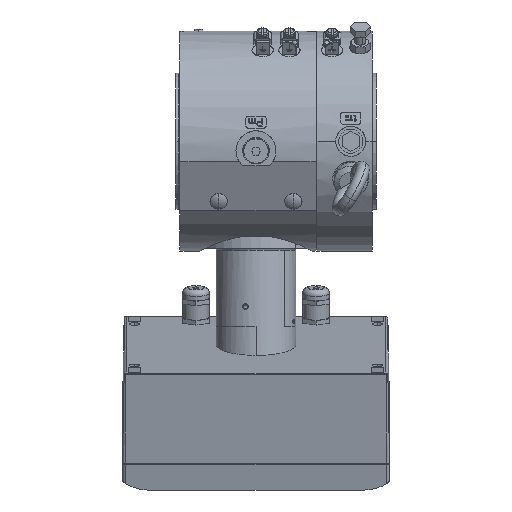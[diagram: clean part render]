
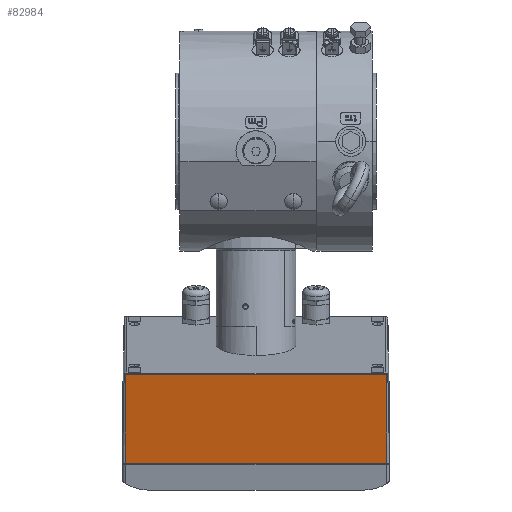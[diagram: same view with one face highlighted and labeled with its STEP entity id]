
A CAD part, front view. The second image highlights one B-rep face of the part: STEP entity #82984.
In plain terms, the highlighted planar face has unit normal (0, -0.97, -0.242).
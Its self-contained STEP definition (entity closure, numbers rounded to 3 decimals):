
#10561=CARTESIAN_POINT('',(-142.986,-80.594,-175.467));
#10562=CARTESIAN_POINT('',(-142.954,-80.602,
-175.436));
#10563=CARTESIAN_POINT('',(-142.888,-80.616,
-175.376));
#10564=CARTESIAN_POINT('',(-142.786,-80.636,
-175.299));
#10565=CARTESIAN_POINT('',(-142.682,-80.653,
-175.231));
#10566=CARTESIAN_POINT('',(-142.575,-80.667,
-175.173));
#10567=CARTESIAN_POINT('',(-142.466,-80.679,
-175.124));
#10568=CARTESIAN_POINT('',(-142.354,-80.689,
-175.083));
#10569=CARTESIAN_POINT('',(-142.277,-80.695,
-175.061));
#10570=CARTESIAN_POINT('',(-142.238,-80.697,
-175.052));
#10644=DIRECTION('',(1.,0.,0.));
#10645=VECTOR('',#10644,194.48);
#10646=CARTESIAN_POINT('',(-142.238,-80.697,
-175.052));
#10647=LINE('5723',#10646,#10645);
#10707=CARTESIAN_POINT('',(52.241,-80.697,
-175.052));
#10708=CARTESIAN_POINT('',(52.281,-80.695,
-175.061));
#10709=CARTESIAN_POINT('',(52.358,-80.689,
-175.084));
#10710=CARTESIAN_POINT('',(52.471,-80.679,
-175.125));
#10711=CARTESIAN_POINT('',(52.58,-80.667,
-175.174));
#10712=CARTESIAN_POINT('',(52.687,-80.652,
-175.232));
#10713=CARTESIAN_POINT('',(52.79,-80.636,
-175.299));
#10714=CARTESIAN_POINT('',(52.89,-80.617,
-175.375));
#10715=CARTESIAN_POINT('',(52.955,-80.602,
-175.433));
#10716=CARTESIAN_POINT('',(52.986,-80.594,-175.464));
#10744=CARTESIAN_POINT('',(52.241,-80.697,
-175.052));
#11048=DIRECTION('',(0.,-0.242,0.97));
#11049=VECTOR('',#11048,67.848);
#11050=CARTESIAN_POINT('',(-142.986,-64.18,-241.3));
#11051=LINE('5581',#11050,#11049);
#11062=DIRECTION('',(1.,0.,0.));
#11063=VECTOR('',#11062,195.972);
#11064=CARTESIAN_POINT('',(-142.986,-64.18,-241.3));
#11065=LINE('5725',#11064,#11063);
#11076=DIRECTION('',(0.,0.242,-0.97));
#11077=VECTOR('',#11076,67.851);
#11078=CARTESIAN_POINT('',(52.986,-80.594,-175.464));
#11079=LINE('5726',#11078,#11077);
#69978=VERTEX_POINT('',#10744);
#69979=VERTEX_POINT('',#10716);
#70129=CARTESIAN_POINT('',(-142.986,-64.18,-241.3));
#70130=CARTESIAN_POINT('',(-142.986,-80.594,-175.467));
#70131=VERTEX_POINT('',#70129);
#70132=VERTEX_POINT('',#70130);
#70315=CARTESIAN_POINT('',(-142.238,-80.697,
-175.052));
#70316=VERTEX_POINT('',#70315);
#70317=CARTESIAN_POINT('',(52.986,-64.18,-241.3));
#70318=VERTEX_POINT('',#70317);
#82969=CARTESIAN_POINT('',(52.986,-64.18,-241.3));
#82970=DIRECTION('',(0.,-0.97,-0.242));
#82971=DIRECTION('',(0.,0.242,-0.97));
#82972=AXIS2_PLACEMENT_3D('',#82969,#82970,#82971);
#82973=PLANE('1117',#82972);
#82974=ORIENTED_EDGE('5723',*,*,#82689,.T.);
#82975=ORIENTED_EDGE('5501',*,*,#82757,.T.);
#82977=ORIENTED_EDGE('5726',*,*,#82976,.T.);
#82979=ORIENTED_EDGE('5725',*,*,#82978,.F.);
#82980=ORIENTED_EDGE('5581',*,*,#82948,.T.);
#82981=ORIENTED_EDGE('5724',*,*,#82656,.T.);
#82982=EDGE_LOOP('1117',(#82974,#82975,#82977,#82979,#82980,#82981));
#82983=FACE_OUTER_BOUND('1117',#82982,.F.);
#10571=B_SPLINE_CURVE_WITH_KNOTS('5724',3,(#10561,#10562,#10563,#10564,#10565,
#10566,#10567,#10568,#10569,#10570),.UNSPECIFIED.,.F.,.F.,(4,1,1,1,1,1,1,4),(
0.,0.143,0.286,0.429,0.571,
0.714,0.857,1.),.UNSPECIFIED.);
#10717=B_SPLINE_CURVE_WITH_KNOTS('5501',3,(#10707,#10708,#10709,#10710,#10711,
#10712,#10713,#10714,#10715,#10716),.UNSPECIFIED.,.F.,.F.,(4,1,1,1,1,1,1,4),(
0.,0.143,0.286,0.429,0.571,
0.714,0.857,1.),.UNSPECIFIED.);
#82656=EDGE_CURVE('5724',#70132,#70316,#10571,.T.);
#82689=EDGE_CURVE('5723',#70316,#69978,#10647,.T.);
#82757=EDGE_CURVE('5501',#69978,#69979,#10717,.T.);
#82948=EDGE_CURVE('5581',#70131,#70132,#11051,.T.);
#82976=EDGE_CURVE('5726',#69979,#70318,#11079,.T.);
#82978=EDGE_CURVE('5725',#70131,#70318,#11065,.T.);
#82984=ADVANCED_FACE('1117',(#82983),#82973,.T.);
